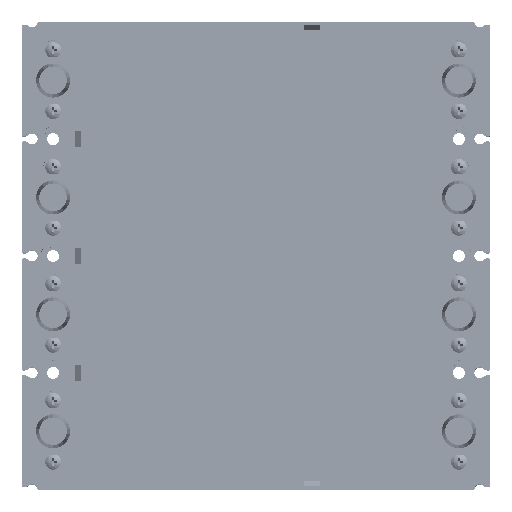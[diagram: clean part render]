
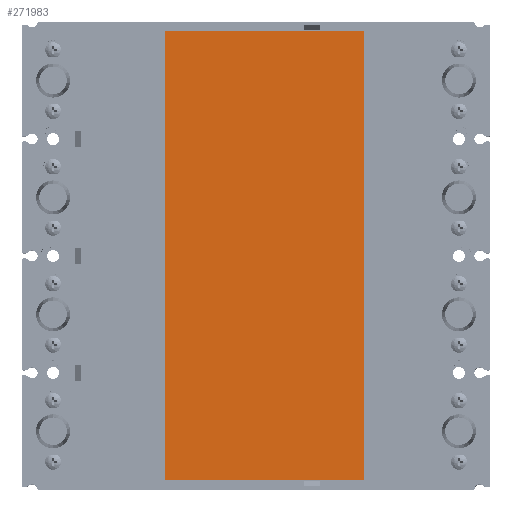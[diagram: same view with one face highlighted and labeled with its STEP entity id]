
A CAD part, top view. The second image highlights one B-rep face of the part: STEP entity #271983.
In plain terms, the highlighted planar face has unit normal (0, 0, 1) as drawn and (0, 1, 0) by its records, which use the part's own axes.
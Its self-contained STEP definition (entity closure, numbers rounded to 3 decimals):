
#271856=DIRECTION('',(1.,0.,0.));
#271857=VECTOR('',#271856,269.);
#271858=CARTESIAN_POINT('',(-134.5,1.,59.5));
#271859=LINE('',#271858,#271857);
#271864=DIRECTION('',(0.,0.,1.));
#271865=VECTOR('',#271864,119.);
#271866=CARTESIAN_POINT('',(-134.5,1.,-59.5));
#271867=LINE('',#271866,#271865);
#271872=DIRECTION('',(-1.,0.,0.));
#271873=VECTOR('',#271872,269.);
#271874=CARTESIAN_POINT('',(134.5,1.,-59.5));
#271875=LINE('',#271874,#271873);
#271880=DIRECTION('',(0.,0.,-1.));
#271881=VECTOR('',#271880,119.);
#271882=CARTESIAN_POINT('',(134.5,1.,59.5));
#271883=LINE('',#271882,#271881);
#271892=CARTESIAN_POINT('',(-134.5,1.,59.5));
#271893=VERTEX_POINT('',#271892);
#271894=CARTESIAN_POINT('',(134.5,1.,59.5));
#271895=VERTEX_POINT('',#271894);
#271896=CARTESIAN_POINT('',(-134.5,1.,-59.5));
#271897=VERTEX_POINT('',#271896);
#271898=CARTESIAN_POINT('',(134.5,1.,-59.5));
#271899=VERTEX_POINT('',#271898);
#271972=CARTESIAN_POINT('',(0.,1.,0.));
#271973=DIRECTION('',(0.,1.,0.));
#271974=DIRECTION('',(1.,0.,0.));
#271975=AXIS2_PLACEMENT_3D('',#271972,#271973,#271974);
#271976=PLANE('',#271975);
#271977=ORIENTED_EDGE('',*,*,#271924,.F.);
#271978=ORIENTED_EDGE('',*,*,#271939,.F.);
#271979=ORIENTED_EDGE('',*,*,#271953,.F.);
#271980=ORIENTED_EDGE('',*,*,#271966,.F.);
#271981=EDGE_LOOP('',(#271977,#271978,#271979,#271980));
#271982=FACE_OUTER_BOUND('',#271981,.F.);
#271983=ADVANCED_FACE('',(#271982),#271976,.T.);
#271924=EDGE_CURVE('',#271893,#271895,#271859,.T.);
#271939=EDGE_CURVE('',#271897,#271893,#271867,.T.);
#271953=EDGE_CURVE('',#271899,#271897,#271875,.T.);
#271966=EDGE_CURVE('',#271895,#271899,#271883,.T.);
